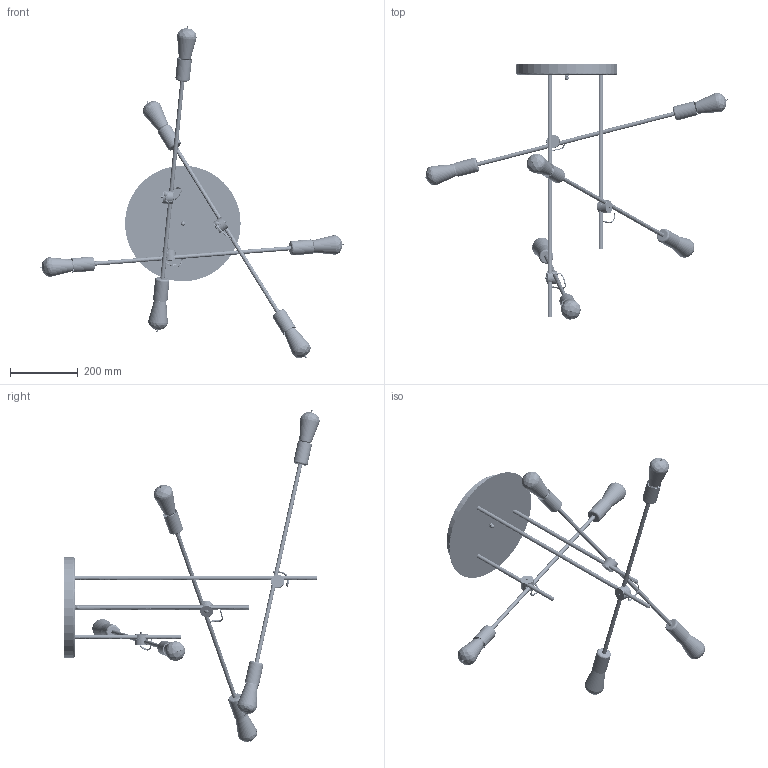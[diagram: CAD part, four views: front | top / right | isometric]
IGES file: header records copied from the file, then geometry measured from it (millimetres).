
Start section: SolidWorks IGES file using analytic representation for surfaces
Global section: file name: F:\GABRYSIA\MODELE 3D\AXIS_9297_WWW\AXIS_9297.IGS; native system: SolidWorks 2017; preprocessor: SolidWorks 2017; author: Togambi; date: 200703.063903; units: millimetre
Bounding box: 897.12 x 751.49 x 976.88 mm (x, y, z)
Surface area: 965430 mm2 (no closed solid volume)
Topology: 0 solids, 0 shells, 1338 faces, 24957 edges, 24925 vertices
Faces by surface type: revolution 880, bspline 458
